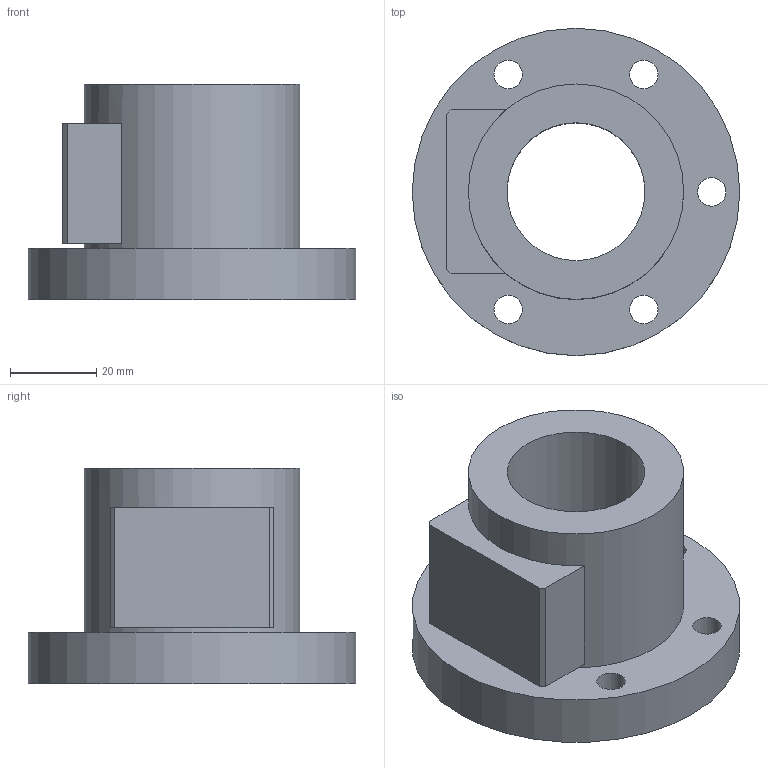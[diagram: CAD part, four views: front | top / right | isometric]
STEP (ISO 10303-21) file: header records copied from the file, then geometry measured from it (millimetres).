
FILE_DESCRIPTION(/* description */ (''),/* implementation_level */ '2;1');
FILE_NAME(/* name */ '32-5C1',/* time_stamp */ '2006-07-31T09:59:42+08:00',/* author */ (''),/* organization */ (''),/* preprocessor_version */ 'ST-DEVELOPER v9',/* originating_system */ 'UGS - NX 4.0',/* authorisation */ '');
FILE_SCHEMA (('CONFIG_CONTROL_DESIGN'));
Length unit declared in the file: millimetre
Products named in the file (1): 32-5C1
Bounding box: 76 x 76 x 50 mm (x, y, z)
Volume: 92948.6 mm3; surface area: 23850.4 mm2
Topology: 1 solids, 1 shells, 28 faces, 61 edges, 42 vertices
Faces by surface type: plane 15, cylinder 13
Full cylindrical faces by diameter (mm): 6.6 x5, 11 x5, 32 x1, 50 x1, 76 x1
Entity records: 794 total; most frequent: DIRECTION 130, CARTESIAN_POINT 111, ORIENTED_EDGE 88, EDGE_LOOP 60, AXIS2_PLACEMENT_3D 57, FACE_BOUND 45, EDGE_CURVE 44, VERTEX_POINT 38
